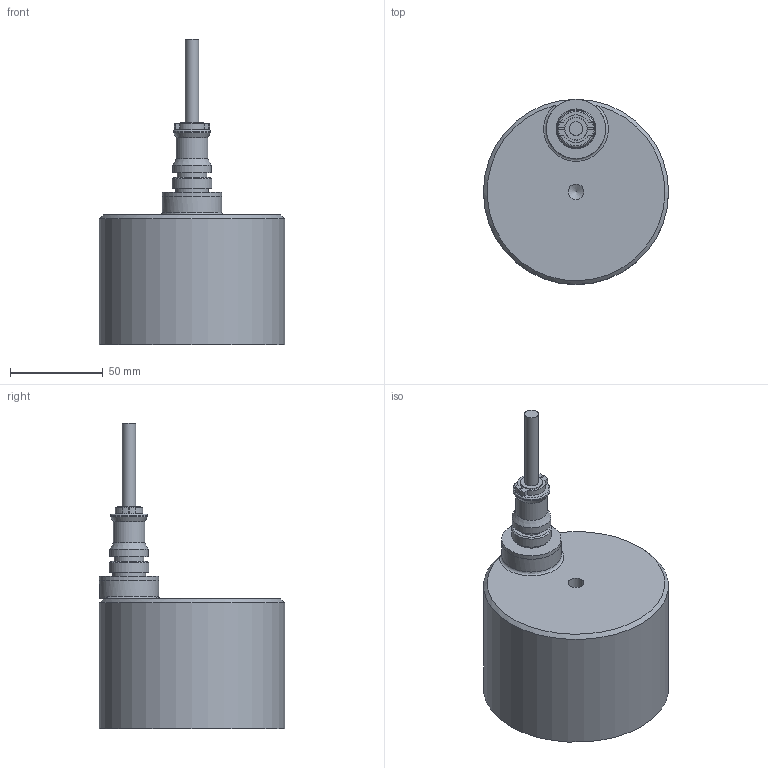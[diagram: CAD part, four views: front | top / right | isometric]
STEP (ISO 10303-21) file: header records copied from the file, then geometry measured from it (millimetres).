
FILE_DESCRIPTION(/* description */ (''),/* implementation_level */ '2;1');
FILE_NAME(/* name */ 'EMH-1-100Dx70H-V.step',/* time_stamp */ '2023-12-15T14:25:03+09:00',/* author */ (''),/* organization */ (''),/* preprocessor_version */ 'ST-DEVELOPER v20',/* originating_system */ 'Autodesk Translation Framework v12.14.0.127',/* authorisation */ '');
FILE_SCHEMA (('AUTOMOTIVE_DESIGN { 1 0 10303 214 3 1 1 }'));
Length unit declared in the file: millimetre
Products named in the file (10): EMH-1-100Dx70H-V; BODY; NCS-162-R; FB6-12; FB6-12_1; FB6-12_2; Cable; NCS-162-P-CH; BODY_1; Cable_1
Assembly tree (10 placements, depth 4):
  EMH-1-100Dx70H-V
    BODY
      NCS-162-R
    FB6-12
      FB6-12_2
    FB6-12_1
      FB6-12_2
    Cable
      NCS-162-P-CH
        BODY_1
        Cable_1
Bounding box: 100 x 100 x 164.8 mm (x, y, z)
Volume: 566357.6 mm3; surface area: 49483.2 mm2
Topology: 6 solids, 44 shells, 118 faces, 283 edges, 218 vertices
Faces by surface type: plane 63, cylinder 35, cone 15, torus 3, bspline 2
Full cylindrical faces by diameter (mm): 3 x2, 5.035 x2, 6 x2, 7.3 x1, 8.526 x1, 12 x3, 14.3 x1, 14.8 x1, 16 x2, 17 x1, 17.884 x1, 18 x2, 20 x1, 21 x1, 21.5 x1, 32 x2, 42 x1, 88 x1, 100 x1
Entity records: 3159 total; most frequent: CARTESIAN_POINT 589, DIRECTION 543, ORIENTED_EDGE 369, AXIS2_PLACEMENT_3D 216, EDGE_CURVE 214, VERTEX_POINT 158, EDGE_LOOP 116, LINE 111
